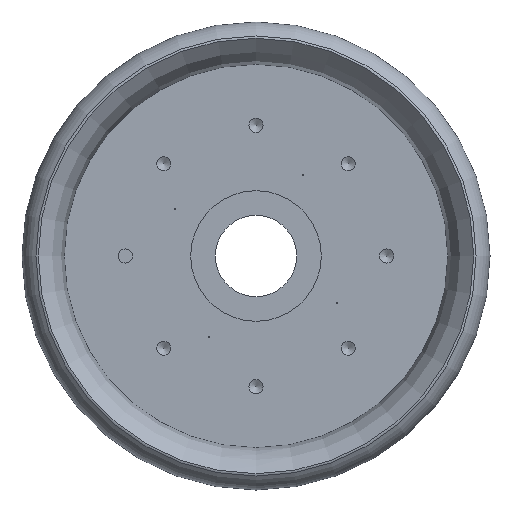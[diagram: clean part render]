
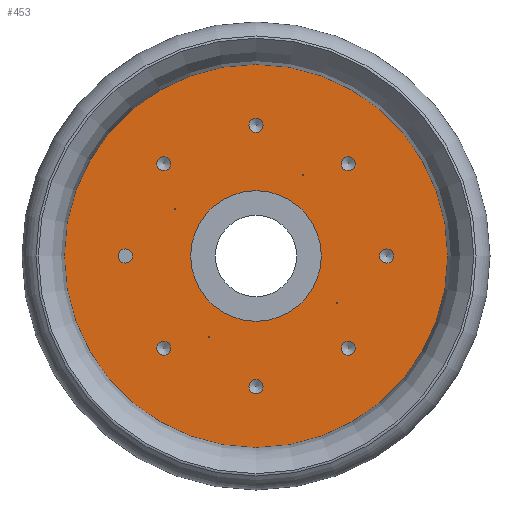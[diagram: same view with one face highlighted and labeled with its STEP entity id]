
A CAD part, front view. The second image highlights one B-rep face of the part: STEP entity #453.
In plain terms, the highlighted planar face has unit normal (0, -1, 0).
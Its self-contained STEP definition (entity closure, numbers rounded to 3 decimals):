
#4 = EDGE_LOOP ( 'NONE', ( #768 ) ) ;
#6 = EDGE_LOOP ( 'NONE', ( #215 ) ) ;
#21 = VERTEX_POINT ( 'NONE', #612 ) ;
#22 = FACE_BOUND ( 'NONE', #4, .T. ) ;
#25 = CIRCLE ( 'NONE', #606, 1.621 ) ;
#26 = DIRECTION ( 'NONE',  ( 0., 0., -1. ) ) ;
#31 = CIRCLE ( 'NONE', #263, 1.621 ) ;
#36 = DIRECTION ( 'NONE',  ( 0., 1., 0. ) ) ;
#37 = EDGE_LOOP ( 'NONE', ( #108 ) ) ;
#43 = DIRECTION ( 'NONE',  ( 0., 1., 0. ) ) ;
#47 = AXIS2_PLACEMENT_3D ( 'NONE', #981, #43, #281 ) ;
#48 = AXIS2_PLACEMENT_3D ( 'NONE', #603, #439, #684 ) ;
#52 = EDGE_CURVE ( 'NONE', #407, #407, #682, .T. ) ;
#54 = CARTESIAN_POINT ( 'NONE',  ( 0., 5.628, -15. ) ) ;
#55 = EDGE_LOOP ( 'NONE', ( #452 ) ) ;
#57 = EDGE_LOOP ( 'NONE', ( #464 ) ) ;
#77 = CARTESIAN_POINT ( 'NONE',  ( 0., 5.628, 28.379 ) ) ;
#78 = EDGE_LOOP ( 'NONE', ( #537 ) ) ;
#84 = CIRCLE ( 'NONE', #376, 1.621 ) ;
#96 = AXIS2_PLACEMENT_3D ( 'NONE', #147, #538, #458 ) ;
#108 = ORIENTED_EDGE ( 'NONE', *, *, #386, .T. ) ;
#119 = FACE_BOUND ( 'NONE', #931, .T. ) ;
#122 = DIRECTION ( 'NONE',  ( 0., 1., 0. ) ) ;
#126 = ORIENTED_EDGE ( 'NONE', *, *, #695, .T. ) ;
#137 = EDGE_CURVE ( 'NONE', #573, #573, #416, .T. ) ;
#147 = CARTESIAN_POINT ( 'NONE',  ( 10.75, 5.628, 18.62 ) ) ;
#154 = EDGE_CURVE ( 'NONE', #428, #428, #389, .T. ) ;
#157 = AXIS2_PLACEMENT_3D ( 'NONE', #194, #343, #743 ) ;
#169 = CARTESIAN_POINT ( 'NONE',  ( 21.213, 5.628, 21.213 ) ) ;
#194 = CARTESIAN_POINT ( 'NONE',  ( -10.75, 5.628, -18.62 ) ) ;
#204 = CARTESIAN_POINT ( 'NONE',  ( 0., 5.628, -44.044 ) ) ;
#214 = DIRECTION ( 'NONE',  ( 0., 1., 0. ) ) ;
#215 = ORIENTED_EDGE ( 'NONE', *, *, #987, .T. ) ;
#225 = PLANE ( 'NONE',  #48 ) ;
#263 = AXIS2_PLACEMENT_3D ( 'NONE', #654, #501, #969 ) ;
#264 = FACE_BOUND ( 'NONE', #700, .T. ) ;
#265 = EDGE_LOOP ( 'NONE', ( #925 ) ) ;
#275 = FACE_BOUND ( 'NONE', #265, .T. ) ;
#281 = DIRECTION ( 'NONE',  ( 0., 0., -1. ) ) ;
#294 = CARTESIAN_POINT ( 'NONE',  ( 0., 5.628, -30. ) ) ;
#304 = CARTESIAN_POINT ( 'NONE',  ( -30., 5.628, -1.621 ) ) ;
#308 = VERTEX_POINT ( 'NONE', #843 ) ;
#311 = AXIS2_PLACEMENT_3D ( 'NONE', #415, #122, #976 ) ;
#320 = ORIENTED_EDGE ( 'NONE', *, *, #342, .F. ) ;
#333 = FACE_BOUND ( 'NONE', #6, .T. ) ;
#334 = ORIENTED_EDGE ( 'NONE', *, *, #449, .T. ) ;
#339 = EDGE_LOOP ( 'NONE', ( #884 ) ) ;
#341 = CIRCLE ( 'NONE', #463, 1.621 ) ;
#342 = EDGE_CURVE ( 'NONE', #368, #368, #796, .T. ) ;
#343 = DIRECTION ( 'NONE',  ( 0., 1., 0. ) ) ;
#353 = DIRECTION ( 'NONE',  ( 0., 0., -1. ) ) ;
#364 = FACE_BOUND ( 'NONE', #541, .T. ) ;
#368 = VERTEX_POINT ( 'NONE', #54 ) ;
#370 = AXIS2_PLACEMENT_3D ( 'NONE', #858, #650, #405 ) ;
#374 = EDGE_CURVE ( 'NONE', #817, #817, #864, .T. ) ;
#376 = AXIS2_PLACEMENT_3D ( 'NONE', #848, #450, #455 ) ;
#384 = CARTESIAN_POINT ( 'NONE',  ( 21.213, 5.628, 19.592 ) ) ;
#386 = EDGE_CURVE ( 'NONE', #767, #767, #417, .T. ) ;
#389 = CIRCLE ( 'NONE', #370, 1.621 ) ;
#391 = AXIS2_PLACEMENT_3D ( 'NONE', #883, #887, #898 ) ;
#405 = DIRECTION ( 'NONE',  ( 0., 0., -1. ) ) ;
#407 = VERTEX_POINT ( 'NONE', #601 ) ;
#408 = DIRECTION ( 'NONE',  ( 0., 0., -1. ) ) ;
#415 = CARTESIAN_POINT ( 'NONE',  ( 18.62, 5.628, -10.75 ) ) ;
#416 = CIRCLE ( 'NONE', #556, 44.044 ) ;
#417 = CIRCLE ( 'NONE', #441, 1.621 ) ;
#428 = VERTEX_POINT ( 'NONE', #902 ) ;
#434 = VERTEX_POINT ( 'NONE', #854 ) ;
#439 = DIRECTION ( 'NONE',  ( 0., -1., 0. ) ) ;
#441 = AXIS2_PLACEMENT_3D ( 'NONE', #574, #819, #26 ) ;
#449 = EDGE_CURVE ( 'NONE', #21, #21, #926, .T. ) ;
#450 = DIRECTION ( 'NONE',  ( 0., 1., 0. ) ) ;
#452 = ORIENTED_EDGE ( 'NONE', *, *, #674, .T. ) ;
#453 = ADVANCED_FACE ( 'NONE', ( #119, #663, #961, #973, #275, #825, #728, #22, #333, #264, #698, #623, #454, #364 ), #225, .T. ) ;
#454 = FACE_BOUND ( 'NONE', #339, .T. ) ;
#455 = DIRECTION ( 'NONE',  ( 0., 0., -1. ) ) ;
#458 = DIRECTION ( 'NONE',  ( 0., 0., -1. ) ) ;
#463 = AXIS2_PLACEMENT_3D ( 'NONE', #294, #615, #919 ) ;
#464 = ORIENTED_EDGE ( 'NONE', *, *, #374, .T. ) ;
#471 = AXIS2_PLACEMENT_3D ( 'NONE', #169, #214, #567 ) ;
#477 = CIRCLE ( 'NONE', #157, 0.144 ) ;
#492 = AXIS2_PLACEMENT_3D ( 'NONE', #744, #36, #408 ) ;
#501 = DIRECTION ( 'NONE',  ( 0., 1., 0. ) ) ;
#504 = CARTESIAN_POINT ( 'NONE',  ( 0., 5.628, 0. ) ) ;
#511 = DIRECTION ( 'NONE',  ( 0., 0., -1. ) ) ;
#527 = DIRECTION ( 'NONE',  ( 0., 1., 0. ) ) ;
#537 = ORIENTED_EDGE ( 'NONE', *, *, #662, .T. ) ;
#538 = DIRECTION ( 'NONE',  ( 0., 1., 0. ) ) ;
#541 = EDGE_LOOP ( 'NONE', ( #334 ) ) ;
#543 = EDGE_CURVE ( 'NONE', #839, #839, #800, .T. ) ;
#554 = ORIENTED_EDGE ( 'NONE', *, *, #154, .T. ) ;
#556 = AXIS2_PLACEMENT_3D ( 'NONE', #504, #811, #511 ) ;
#567 = DIRECTION ( 'NONE',  ( 0., 0., -1. ) ) ;
#569 = EDGE_LOOP ( 'NONE', ( #126 ) ) ;
#573 = VERTEX_POINT ( 'NONE', #204 ) ;
#574 = CARTESIAN_POINT ( 'NONE',  ( 21.213, 5.628, -21.213 ) ) ;
#601 = CARTESIAN_POINT ( 'NONE',  ( 10.75, 5.628, 18.476 ) ) ;
#603 = CARTESIAN_POINT ( 'NONE',  ( 0., 5.628, 0. ) ) ;
#606 = AXIS2_PLACEMENT_3D ( 'NONE', #913, #527, #353 ) ;
#612 = CARTESIAN_POINT ( 'NONE',  ( -18.62, 5.628, 10.606 ) ) ;
#615 = DIRECTION ( 'NONE',  ( 0., 1., 0. ) ) ;
#616 = VERTEX_POINT ( 'NONE', #1015 ) ;
#620 = VERTEX_POINT ( 'NONE', #384 ) ;
#623 = FACE_BOUND ( 'NONE', #953, .T. ) ;
#650 = DIRECTION ( 'NONE',  ( 0., 1., 0. ) ) ;
#654 = CARTESIAN_POINT ( 'NONE',  ( -30., 5.628, 0. ) ) ;
#662 = EDGE_CURVE ( 'NONE', #616, #616, #477, .T. ) ;
#663 = FACE_BOUND ( 'NONE', #55, .T. ) ;
#674 = EDGE_CURVE ( 'NONE', #862, #862, #31, .T. ) ;
#682 = CIRCLE ( 'NONE', #96, 0.144 ) ;
#684 = DIRECTION ( 'NONE',  ( 0., 0., -1. ) ) ;
#695 = EDGE_CURVE ( 'NONE', #938, #938, #84, .T. ) ;
#696 = CARTESIAN_POINT ( 'NONE',  ( 18.62, 5.628, -10.894 ) ) ;
#698 = FACE_BOUND ( 'NONE', #78, .T. ) ;
#700 = EDGE_LOOP ( 'NONE', ( #554 ) ) ;
#701 = CIRCLE ( 'NONE', #471, 1.621 ) ;
#708 = ORIENTED_EDGE ( 'NONE', *, *, #137, .T. ) ;
#728 = FACE_BOUND ( 'NONE', #37, .T. ) ;
#743 = DIRECTION ( 'NONE',  ( 0., 0., -1. ) ) ;
#744 = CARTESIAN_POINT ( 'NONE',  ( -18.62, 5.628, 10.75 ) ) ;
#767 = VERTEX_POINT ( 'NONE', #801 ) ;
#768 = ORIENTED_EDGE ( 'NONE', *, *, #837, .T. ) ;
#786 = EDGE_LOOP ( 'NONE', ( #708 ) ) ;
#796 = CIRCLE ( 'NONE', #391, 15. ) ;
#800 = CIRCLE ( 'NONE', #311, 0.144 ) ;
#801 = CARTESIAN_POINT ( 'NONE',  ( 21.213, 5.628, -22.834 ) ) ;
#811 = DIRECTION ( 'NONE',  ( 0., -1., 0. ) ) ;
#817 = VERTEX_POINT ( 'NONE', #834 ) ;
#819 = DIRECTION ( 'NONE',  ( 0., 1., 0. ) ) ;
#825 = FACE_BOUND ( 'NONE', #57, .T. ) ;
#834 = CARTESIAN_POINT ( 'NONE',  ( 30., 5.628, -1.621 ) ) ;
#837 = EDGE_CURVE ( 'NONE', #434, #434, #341, .T. ) ;
#839 = VERTEX_POINT ( 'NONE', #696 ) ;
#843 = CARTESIAN_POINT ( 'NONE',  ( -21.213, 5.628, 19.592 ) ) ;
#848 = CARTESIAN_POINT ( 'NONE',  ( 0., 5.628, 30. ) ) ;
#854 = CARTESIAN_POINT ( 'NONE',  ( 0., 5.628, -31.621 ) ) ;
#856 = ORIENTED_EDGE ( 'NONE', *, *, #543, .T. ) ;
#858 = CARTESIAN_POINT ( 'NONE',  ( -21.213, 5.628, -21.213 ) ) ;
#862 = VERTEX_POINT ( 'NONE', #304 ) ;
#864 = CIRCLE ( 'NONE', #47, 1.621 ) ;
#883 = CARTESIAN_POINT ( 'NONE',  ( 0., 5.628, 0. ) ) ;
#884 = ORIENTED_EDGE ( 'NONE', *, *, #52, .T. ) ;
#887 = DIRECTION ( 'NONE',  ( 0., -1., 0. ) ) ;
#898 = DIRECTION ( 'NONE',  ( 0., 0., -1. ) ) ;
#902 = CARTESIAN_POINT ( 'NONE',  ( -21.213, 5.628, -22.834 ) ) ;
#913 = CARTESIAN_POINT ( 'NONE',  ( -21.213, 5.628, 21.213 ) ) ;
#919 = DIRECTION ( 'NONE',  ( 0., 0., -1. ) ) ;
#925 = ORIENTED_EDGE ( 'NONE', *, *, #979, .T. ) ;
#926 = CIRCLE ( 'NONE', #492, 0.144 ) ;
#931 = EDGE_LOOP ( 'NONE', ( #320 ) ) ;
#938 = VERTEX_POINT ( 'NONE', #77 ) ;
#953 = EDGE_LOOP ( 'NONE', ( #856 ) ) ;
#961 = FACE_OUTER_BOUND ( 'NONE', #786, .T. ) ;
#969 = DIRECTION ( 'NONE',  ( 0., 0., -1. ) ) ;
#973 = FACE_BOUND ( 'NONE', #569, .T. ) ;
#976 = DIRECTION ( 'NONE',  ( 0., 0., -1. ) ) ;
#979 = EDGE_CURVE ( 'NONE', #620, #620, #701, .T. ) ;
#981 = CARTESIAN_POINT ( 'NONE',  ( 30., 5.628, 0. ) ) ;
#987 = EDGE_CURVE ( 'NONE', #308, #308, #25, .T. ) ;
#1015 = CARTESIAN_POINT ( 'NONE',  ( -10.75, 5.628, -18.763 ) ) ;
